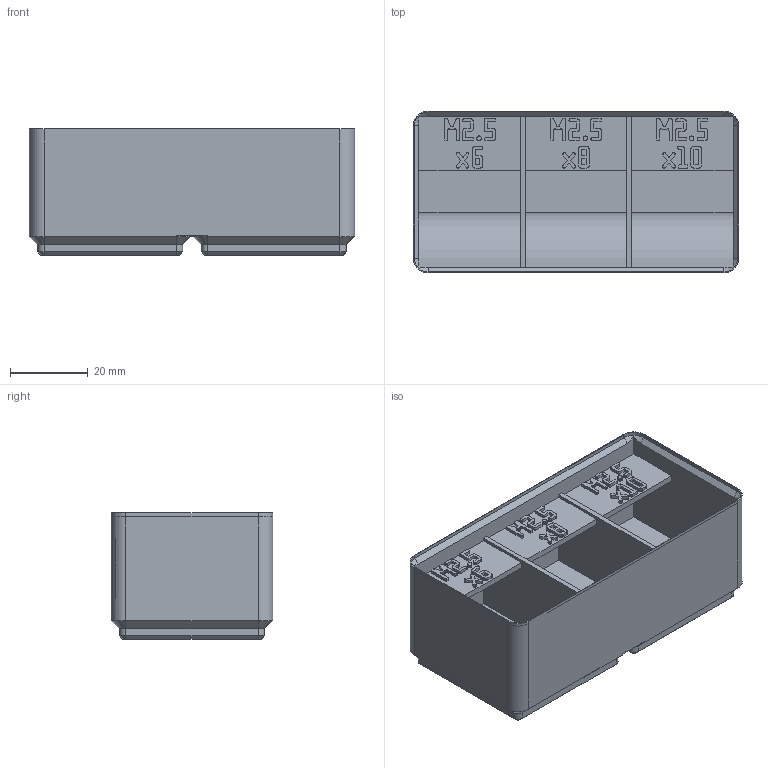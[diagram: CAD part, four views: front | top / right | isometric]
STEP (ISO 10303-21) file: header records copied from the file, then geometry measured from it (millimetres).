
FILE_DESCRIPTION(('Open CASCADE Model'),'2;1');
FILE_NAME('Open CASCADE Shape Model','2026-11-16T17:31:41',('Author'),( 'Open CASCADE'),'Open CASCADE STEP processor 8.0','build123d', 'Unknown');
FILE_SCHEMA(('AUTOMOTIVE_DESIGN { 1 0 10303 214 1 1 1 1 }'));
Products named in the file (1): SOLID
Bounding box: 83.5 x 41.5 x 32.4 mm (x, y, z)
Volume: 49395.1 mm3; surface area: 23544.9 mm2
Topology: 1 solids, 1 shells, 1946 faces, 5698 edges, 3780 vertices
Faces by surface type: plane 1903, cylinder 23, cone 20
Entity records: 133576 total; most frequent: CARTESIAN_POINT 26807, DIRECTION 17248, LINE 13206, VECTOR 13206, ORIENTED_EDGE 11396, PCURVE 11396, DEFINITIONAL_REPRESENTATION 11396, EDGE_CURVE 5698
